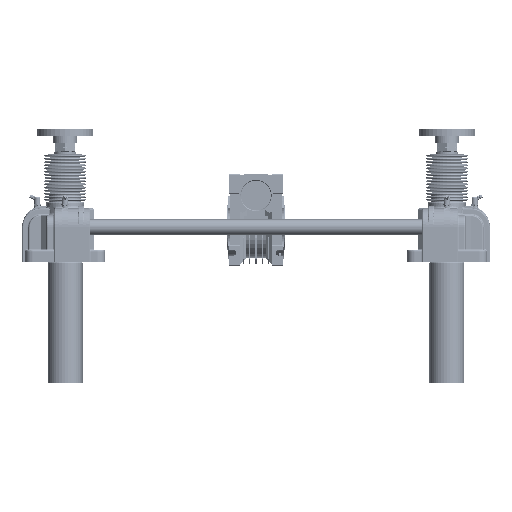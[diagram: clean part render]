
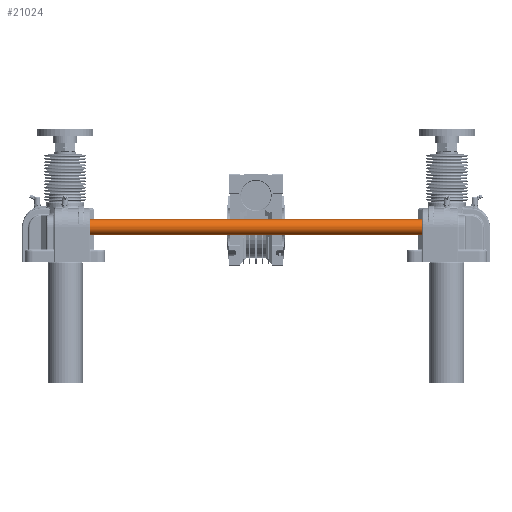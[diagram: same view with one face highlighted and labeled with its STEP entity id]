
A CAD part, left-side view. The second image highlights one B-rep face of the part: STEP entity #21024.
In plain terms, the highlighted cylindrical face has radius 12.5 mm (diameter 25 mm), a full revolution.
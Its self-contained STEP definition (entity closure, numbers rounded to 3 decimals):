
#21024=ADVANCED_FACE('',(#48296,#48297),#48298,.T.);
#48296=FACE_OUTER_BOUND('',#89676,.T.);
#48297=FACE_OUTER_BOUND('',#89677,.T.);
#48298=CYLINDRICAL_SURFACE('',#89678,12.5);
#89676=EDGE_LOOP('',(#198237));
#89677=EDGE_LOOP('',(#198238));
#89678=AXIS2_PLACEMENT_3D('',#198239,#198240,#198241);
#198237=ORIENTED_EDGE('',*,*,#233406,.T.);
#198238=ORIENTED_EDGE('',*,*,#233403,.T.);
#198239=CARTESIAN_POINT('',(0.0,0.0,642.0));
#198240=DIRECTION('',(0.0,0.0,-1.0));
#198241=DIRECTION('',(-1.0,0.0,0.0));
#233403=EDGE_CURVE('',#291642,#291642,#291643,.F.);
#233406=EDGE_CURVE('',#291648,#291648,#291649,.T.);
#291642=VERTEX_POINT('',#399866);
#291643=CIRCLE('',#399867,12.5);
#291648=VERTEX_POINT('',#399872);
#291649=CIRCLE('',#399873,12.5);
#399866=CARTESIAN_POINT('',(12.5,0.0,641.0));
#399867=AXIS2_PLACEMENT_3D('',#439951,#439952,#439953);
#399872=CARTESIAN_POINT('',(12.5,0.0,1.0));
#399873=AXIS2_PLACEMENT_3D('',#439960,#439961,#439962);
#439951=CARTESIAN_POINT('',(0.0,0.0,641.0));
#439952=DIRECTION('',(0.0,0.0,1.0));
#439953=DIRECTION('',(1.0,0.0,0.0));
#439960=CARTESIAN_POINT('',(0.0,0.0,1.0));
#439961=DIRECTION('',(0.0,0.0,1.0));
#439962=DIRECTION('',(1.0,0.0,0.0));
